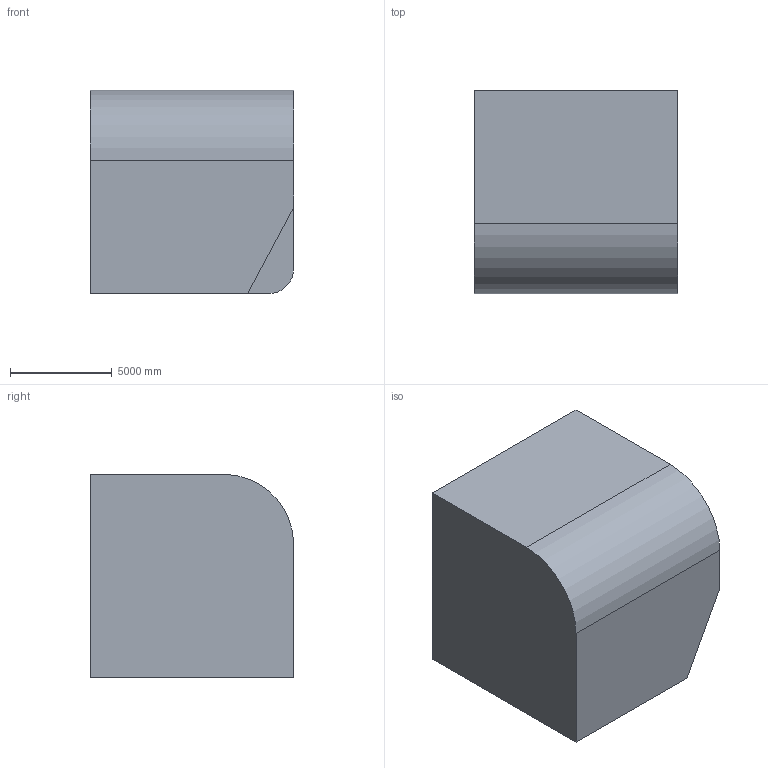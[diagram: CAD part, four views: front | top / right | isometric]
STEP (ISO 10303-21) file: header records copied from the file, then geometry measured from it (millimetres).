
FILE_DESCRIPTION (( 'STEP AP203' ), '1' );
FILE_NAME ('40.STEP', '2022-08-31T11:15:10', ( 'user' ), ( '' ), 'SwSTEP 2.0', 'SolidWorks 2021', '' );
FILE_SCHEMA (( 'CONFIG_CONTROL_DESIGN' ));
Length unit declared in the file: centimetre
Products named in the file (1): 40
Bounding box: 10000 x 10000 x 10000 mm (x, y, z)
Volume: 943923552594.1 mm3; surface area: 567048814.7 mm2
Topology: 1 solids, 1 shells, 10 faces, 24 edges, 16 vertices
Faces by surface type: plane 8, cylinder 2
Entity records: 369 total; most frequent: CARTESIAN_POINT 51, DIRECTION 50, ORIENTED_EDGE 48, EDGE_CURVE 24, LINE 20, VECTOR 20, VERTEX_POINT 16, AXIS2_PLACEMENT_3D 15
